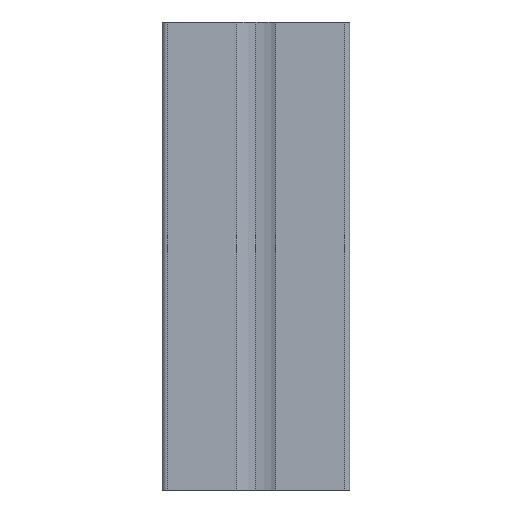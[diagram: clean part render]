
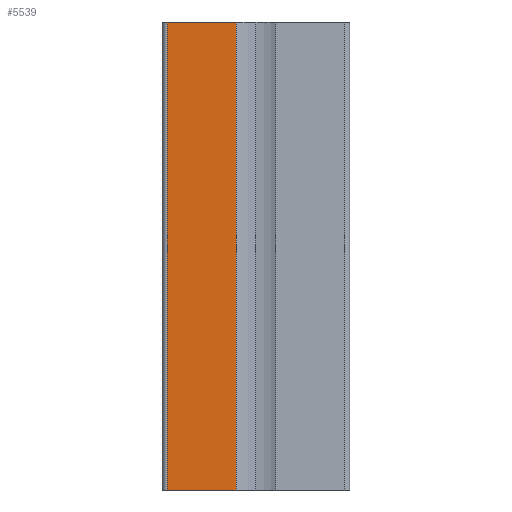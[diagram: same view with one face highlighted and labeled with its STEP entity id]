
A CAD part, left-side view. The second image highlights one B-rep face of the part: STEP entity #5539.
In plain terms, the highlighted planar face has unit normal (-1, 0, 0).
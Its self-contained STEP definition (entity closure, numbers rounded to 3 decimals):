
#256 = CARTESIAN_POINT ( 'NONE',  ( -20., 4.2, 0. ) ) ;
#401 = ORIENTED_EDGE ( 'NONE', *, *, #1687, .F. ) ;
#463 = EDGE_CURVE ( 'NONE', #2015, #1935, #1255, .T. ) ;
#735 = DIRECTION ( 'NONE',  ( 0., -1., 0. ) ) ;
#995 = CARTESIAN_POINT ( 'NONE',  ( -20., 19., -100. ) ) ;
#1019 = DIRECTION ( 'NONE',  ( 0., 0., 1. ) ) ;
#1053 = CARTESIAN_POINT ( 'NONE',  ( -20., 19., -100. ) ) ;
#1255 = LINE ( 'NONE', #5797, #5843 ) ;
#1332 = VECTOR ( 'NONE', #3161, 1000. ) ;
#1410 = VECTOR ( 'NONE', #1677, 1000. ) ;
#1583 = LINE ( 'NONE', #4331, #3990 ) ;
#1677 = DIRECTION ( 'NONE',  ( 0., 0., 1. ) ) ;
#1687 = EDGE_CURVE ( 'NONE', #2015, #2639, #2719, .T. ) ;
#1702 = EDGE_LOOP ( 'NONE', ( #3053, #401, #4725, #3604 ) ) ;
#1935 = VERTEX_POINT ( 'NONE', #4539 ) ;
#2015 = VERTEX_POINT ( 'NONE', #995 ) ;
#2639 = VERTEX_POINT ( 'NONE', #6418 ) ;
#2719 = LINE ( 'NONE', #4711, #1410 ) ;
#2964 = EDGE_CURVE ( 'NONE', #2639, #4809, #5886, .T. ) ;
#3053 = ORIENTED_EDGE ( 'NONE', *, *, #2964, .F. ) ;
#3057 = PLANE ( 'NONE',  #4208 ) ;
#3161 = DIRECTION ( 'NONE',  ( 0., -1., 0. ) ) ;
#3559 = DIRECTION ( 'NONE',  ( -1., 0., 0. ) ) ;
#3604 = ORIENTED_EDGE ( 'NONE', *, *, #6546, .T. ) ;
#3990 = VECTOR ( 'NONE', #4115, 1000. ) ;
#4038 = FACE_OUTER_BOUND ( 'NONE', #1702, .T. ) ;
#4115 = DIRECTION ( 'NONE',  ( 0., 0., 1. ) ) ;
#4208 = AXIS2_PLACEMENT_3D ( 'NONE', #1053, #3559, #1019 ) ;
#4331 = CARTESIAN_POINT ( 'NONE',  ( -20., 4.2, -100. ) ) ;
#4539 = CARTESIAN_POINT ( 'NONE',  ( -20., 4.2, -100. ) ) ;
#4711 = CARTESIAN_POINT ( 'NONE',  ( -20., 19., -100. ) ) ;
#4725 = ORIENTED_EDGE ( 'NONE', *, *, #463, .T. ) ;
#4741 = CARTESIAN_POINT ( 'NONE',  ( -20., 19., 0. ) ) ;
#4809 = VERTEX_POINT ( 'NONE', #256 ) ;
#5539 = ADVANCED_FACE ( 'NONE', ( #4038 ), #3057, .T. ) ;
#5797 = CARTESIAN_POINT ( 'NONE',  ( -20., 19., -100. ) ) ;
#5843 = VECTOR ( 'NONE', #735, 1000. ) ;
#5886 = LINE ( 'NONE', #4741, #1332 ) ;
#6418 = CARTESIAN_POINT ( 'NONE',  ( -20., 19., 0. ) ) ;
#6546 = EDGE_CURVE ( 'NONE', #1935, #4809, #1583, .T. ) ;
